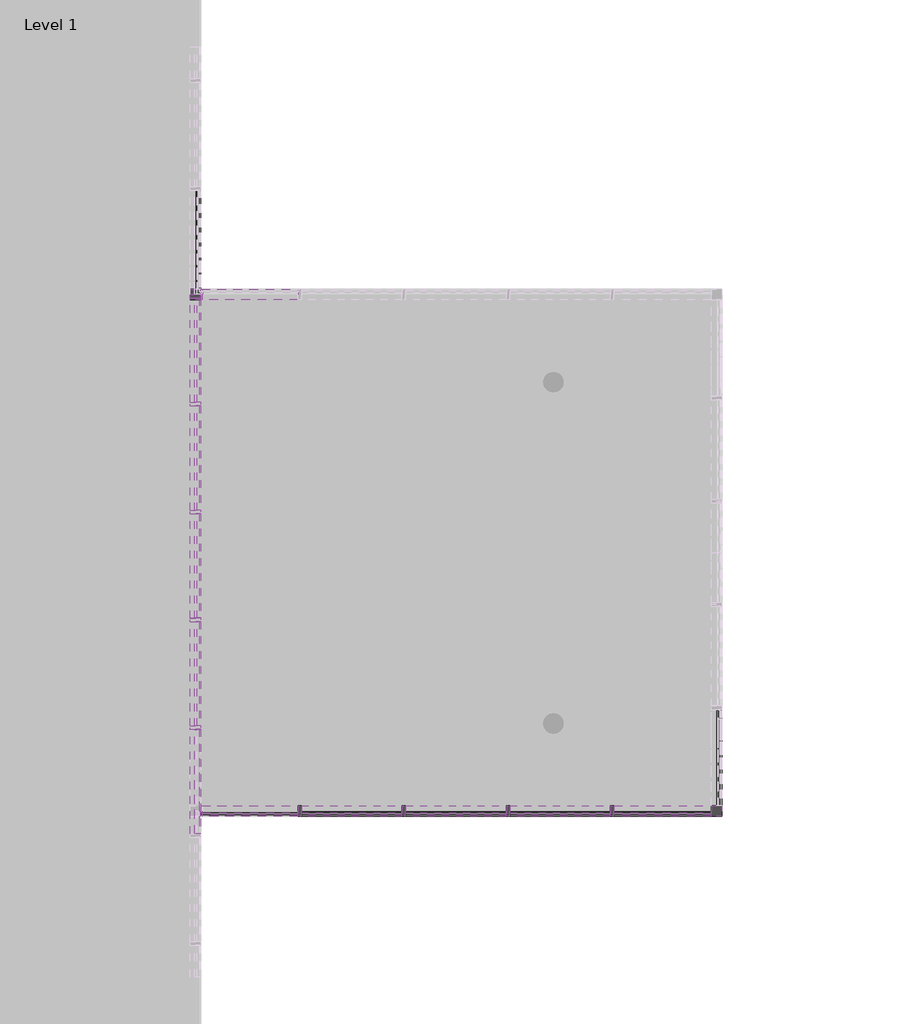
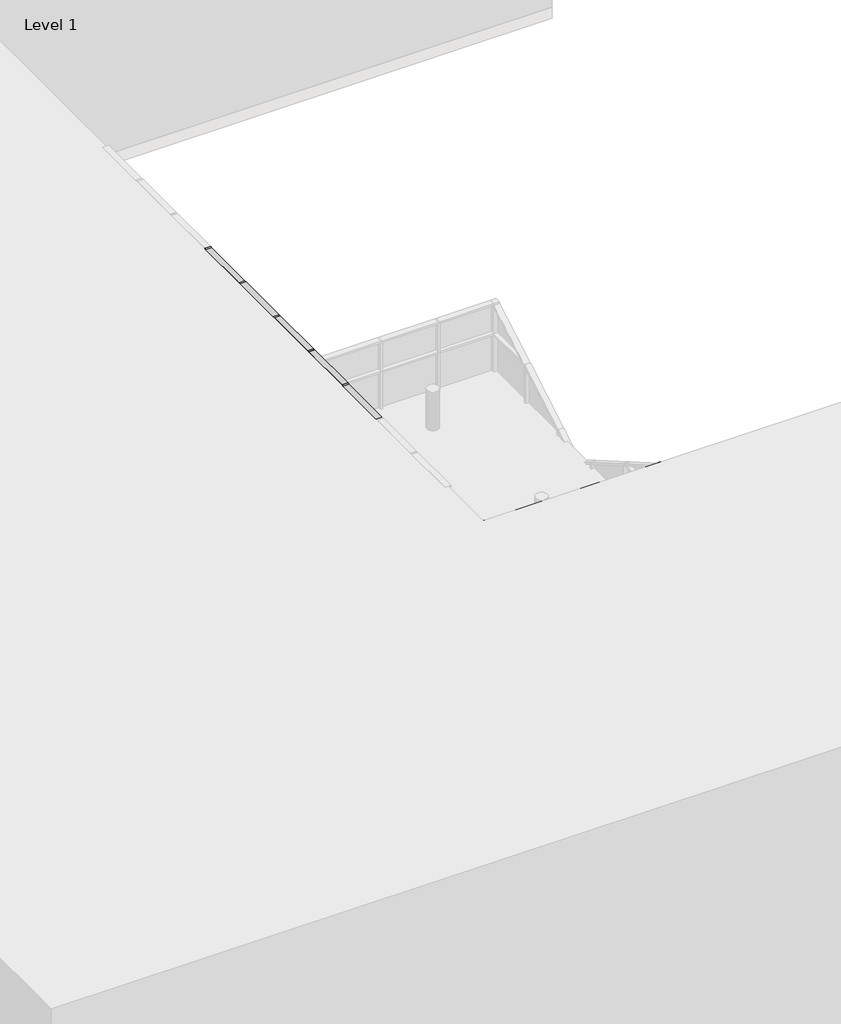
# One storey, part 3 of 18: 87 members, 35 plates.
"""IFC4 building model written with IfcOpenShell, lengths in millimetres."""

from ifc_helpers import new_model, si_unit, origin, place, context, project, spatial, transform, mapped, element, save
from components import quad_corner_mullion_quad_mullion_1_84add008, quad_corner_mullion_quad_mullion_1_33c9fb38, quad_corner_mullion_quad_mullion_1_4b298a92, quad_corner_mullion_quad_mullion_1_81362c20, quad_corner_mullion_quad_mullion_1_bceed214, quad_corner_mullion_quad_mullion_1_e3694288, rectangular_mullion_50mm_x_150mm_70cae3e1, rectangular_mullion_50mm_x_150mm_5226f6e8, rectangular_mullion_50mm_x_150mm_c839a2ff, rectangular_mullion_50mm_x_150mm_4fd86324, rectangular_mullion_50mm_x_150mm_6edb5cd3, rectangular_mullion_50mm_x_150mm_3bb547da, rectangular_mullion_50mm_x_150mm_487a502d, rectangular_mullion_50mm_x_150mm_33c77db3, rectangular_mullion_50mm_x_150mm_62159ae8, rectangular_mullion_50mm_x_150mm_bbc1c4ea, rectangular_mullion_50mm_x_150mm_84717ec5, rectangular_mullion_50mm_x_150mm_36202a7c, rectangular_mullion_50mm_x_150mm_1f94af64, rectangular_mullion_50mm_x_150mm_2daa7a2f, rectangular_mullion_50mm_x_150mm_ba376b5f, rectangular_mullion_50mm_x_150mm_cb05066b, rectangular_mullion_50mm_x_150mm_f059afb6, system_panel_glazed_77cafc2b, system_panel_glazed_ed797616, system_panel_glazed_95eec517, system_panel_glazed_979b1f5c, system_panel_glazed_bda8db77, system_panel_glazed_372dedf1, system_panel_glazed_d933175f, system_panel_glazed_53162424, system_panel_glazed_af97afc8, system_panel_glazed_280cad58, system_panel_solid_7338a288, system_panel_solid_0b170172, system_panel_solid_f97cb735

model = new_model("IFC4")

# Units and contexts
model_context = context("Model", 3, world=origin())
ifc_project = project(units=[si_unit("LENGTHUNIT", "METRE", prefix="MILLI")], contexts=[model_context])

# Site, building, storey
site = spatial("IfcSite", under=ifc_project)
building = spatial("IfcBuilding", under=site)
storey = spatial("IfcBuildingStorey", under=building, Name="Level 1", Elevation=0.0)

# Members
placement = place(None, origin())
quad_corner_mullion_quad_mullion_1_shape = quad_corner_mullion_quad_mullion_1_84add008(model_context)
element("IfcMember", 1, ObjectType="Quad Corner Mullion : Quad Mullion 1", at=placement, inside=storey, context=model_context, shape_type="MappedRepresentation", body=[
    mapped(quad_corner_mullion_quad_mullion_1_shape, transform((14709.0902051, -7283.8611817, 0.0), x_axis=(1.0, 0.0, 0.0), y_axis=(0.0, -1.0, 0.0), z_axis=(0.0, 0.0, -1.0))),
])
quad_corner_mullion_quad_mullion_1_2_shape = quad_corner_mullion_quad_mullion_1_33c9fb38(model_context)
element("IfcMember", 2, ObjectType="Quad Corner Mullion : Quad Mullion 1", at=placement, inside=storey, context=model_context, shape_type="MappedRepresentation", body=[
    mapped(quad_corner_mullion_quad_mullion_1_2_shape, transform((7497.0010724, -89.4607941, 6550.0), x_axis=(-1.0, 0.0, 0.0), y_axis=(0.0, 1.0, 0.0), z_axis=(0.0, 0.0, -1.0))),
])
quad_corner_mullion_quad_mullion_1_3_shape = quad_corner_mullion_quad_mullion_1_4b298a92(model_context)
element("IfcMember", 3, ObjectType="Quad Corner Mullion : Quad Mullion 1", at=placement, inside=storey, context=model_context, shape_type="MappedRepresentation", body=[
    mapped(quad_corner_mullion_quad_mullion_1_3_shape, transform((7497.0010724, -89.4607941, 7600.0), x_axis=(-1.0, 0.0, 0.0), y_axis=(0.0, 1.0, 0.0), z_axis=(0.0, 0.0, -1.0))),
])
element("IfcMember", 4, ObjectType="Quad Corner Mullion : Quad Mullion 1", at=placement, inside=storey, context=model_context, shape_type="MappedRepresentation", body=[
    mapped(quad_corner_mullion_quad_mullion_1_shape, transform((14709.0902051, -7283.8611817, 3800.0), x_axis=(1.0, 0.0, 0.0), y_axis=(0.0, -1.0, 0.0), z_axis=(0.0, 0.0, -1.0))),
])
quad_corner_mullion_quad_mullion_1_4_shape = quad_corner_mullion_quad_mullion_1_81362c20(model_context)
element("IfcMember", 5, ObjectType="Quad Corner Mullion : Quad Mullion 1", at=placement, inside=storey, context=model_context, shape_type="MappedRepresentation", body=[
    mapped(quad_corner_mullion_quad_mullion_1_4_shape, transform((14709.0902051, -7283.8611817, 7600.0), x_axis=(1.0, 0.0, 0.0), y_axis=(0.0, -1.0, 0.0), z_axis=(0.0, 0.0, -1.0))),
])
quad_corner_mullion_quad_mullion_1_5_shape = quad_corner_mullion_quad_mullion_1_bceed214(model_context)
element("IfcMember", 6, ObjectType="Quad Corner Mullion : Quad Mullion 1", at=placement, inside=storey, context=model_context, shape_type="MappedRepresentation", body=[
    mapped(quad_corner_mullion_quad_mullion_1_5_shape, transform((7447.5010724, -89.4607941, 0.0), x_axis=(-1.0, 0.0, 0.0), y_axis=(0.0, 1.0, 0.0), z_axis=(0.0, 0.0, -1.0))),
])
quad_corner_mullion_quad_mullion_1_6_shape = quad_corner_mullion_quad_mullion_1_e3694288(model_context)
element("IfcMember", 7, ObjectType="Quad Corner Mullion : Quad Mullion 1", at=placement, inside=storey, context=model_context, shape_type="MappedRepresentation", body=[
    mapped(quad_corner_mullion_quad_mullion_1_6_shape, transform((7447.5010724, -89.4607941, 3800.0), x_axis=(-1.0, 0.0, 0.0), y_axis=(0.0, 1.0, 0.0), z_axis=(0.0, 0.0, -1.0))),
])
rectangular_mullion_50mm_x_150mm_shape = rectangular_mullion_50mm_x_150mm_70cae3e1(model_context)
element("IfcMember", 8, ObjectType="Rectangular Mullion : 50mm x 150mm", at=placement, inside=storey, context=model_context, shape_type="MappedRepresentation", body=[
    mapped(rectangular_mullion_50mm_x_150mm_shape, transform((7447.5010724, -6148.3709452, 12400.0), x_axis=(0.0, 0.0, 1.0), y_axis=(1.0, 0.0, 0.0), z_axis=(0.0, 1.0, 0.0))),
])
element("IfcMember", 9, ObjectType="Rectangular Mullion : 50mm x 150mm", at=placement, inside=storey, context=model_context, shape_type="MappedRepresentation", body=[
    mapped(rectangular_mullion_50mm_x_150mm_shape, transform((7447.5010724, -4646.1232893, 12400.0), x_axis=(0.0, 0.0, 1.0), y_axis=(1.0, 0.0, 0.0), z_axis=(0.0, 1.0, 0.0))),
])
element("IfcMember", 10, ObjectType="Rectangular Mullion : 50mm x 150mm", at=placement, inside=storey, context=model_context, shape_type="MappedRepresentation", body=[
    mapped(rectangular_mullion_50mm_x_150mm_shape, transform((7447.5010724, -3143.8756334, 12400.0), x_axis=(0.0, 0.0, 1.0), y_axis=(1.0, 0.0, 0.0), z_axis=(0.0, 1.0, 0.0))),
])
element("IfcMember", 11, ObjectType="Rectangular Mullion : 50mm x 150mm", at=placement, inside=storey, context=model_context, shape_type="MappedRepresentation", body=[
    mapped(rectangular_mullion_50mm_x_150mm_shape, transform((7447.5010724, -1641.6279774, 12400.0), x_axis=(0.0, 0.0, 1.0), y_axis=(1.0, 0.0, 0.0), z_axis=(0.0, 1.0, 0.0))),
])
element("IfcMember", 12, ObjectType="Rectangular Mullion : 50mm x 150mm", at=placement, inside=storey, context=model_context, shape_type="MappedRepresentation", body=[
    mapped(rectangular_mullion_50mm_x_150mm_shape, transform((7447.5010724, -139.3803215, 12400.0), x_axis=(0.0, 0.0, 1.0), y_axis=(1.0, 0.0, 0.0), z_axis=(0.0, 1.0, 0.0))),
])
element("IfcMember", 13, ObjectType="Rectangular Mullion : 50mm x 150mm", at=placement, inside=storey, context=model_context, shape_type="MappedRepresentation", body=[
    mapped(rectangular_mullion_50mm_x_150mm_shape, transform((7447.5010724, -6098.3709452, 6600.0), x_axis=(0.0, 0.0, -1.0), y_axis=(1.0, 0.0, 0.0), z_axis=(0.0, -1.0, 0.0))),
])
element("IfcMember", 14, ObjectType="Rectangular Mullion : 50mm x 150mm", at=placement, inside=storey, context=model_context, shape_type="MappedRepresentation", body=[
    mapped(rectangular_mullion_50mm_x_150mm_shape, transform((7447.5010724, -4596.1232893, 6600.0), x_axis=(0.0, 0.0, -1.0), y_axis=(1.0, 0.0, 0.0), z_axis=(0.0, -1.0, 0.0))),
])
element("IfcMember", 15, ObjectType="Rectangular Mullion : 50mm x 150mm", at=placement, inside=storey, context=model_context, shape_type="MappedRepresentation", body=[
    mapped(rectangular_mullion_50mm_x_150mm_shape, transform((7447.5010724, -3093.8756334, 6600.0), x_axis=(0.0, 0.0, -1.0), y_axis=(1.0, 0.0, 0.0), z_axis=(0.0, -1.0, 0.0))),
])
element("IfcMember", 16, ObjectType="Rectangular Mullion : 50mm x 150mm", at=placement, inside=storey, context=model_context, shape_type="MappedRepresentation", body=[
    mapped(rectangular_mullion_50mm_x_150mm_shape, transform((7447.5010724, -1591.6279774, 6600.0), x_axis=(0.0, 0.0, -1.0), y_axis=(1.0, 0.0, 0.0), z_axis=(0.0, -1.0, 0.0))),
])
rectangular_mullion_50mm_x_150mm_2_shape = rectangular_mullion_50mm_x_150mm_5226f6e8(model_context)
element("IfcMember", 17, ObjectType="Rectangular Mullion : 50mm x 150mm", at=placement, inside=storey, context=model_context, shape_type="MappedRepresentation", body=[
    mapped(rectangular_mullion_50mm_x_150mm_2_shape, transform((7447.5010724, -6148.3709452, 7600.0), x_axis=(0.0, 0.0, 1.0), y_axis=(1.0, 0.0, 0.0), z_axis=(0.0, 1.0, 0.0))),
])
element("IfcMember", 18, ObjectType="Rectangular Mullion : 50mm x 150mm", at=placement, inside=storey, context=model_context, shape_type="MappedRepresentation", body=[
    mapped(rectangular_mullion_50mm_x_150mm_2_shape, transform((7447.5010724, -4646.1232893, 7600.0), x_axis=(0.0, 0.0, 1.0), y_axis=(1.0, 0.0, 0.0), z_axis=(0.0, 1.0, 0.0))),
])
element("IfcMember", 19, ObjectType="Rectangular Mullion : 50mm x 150mm", at=placement, inside=storey, context=model_context, shape_type="MappedRepresentation", body=[
    mapped(rectangular_mullion_50mm_x_150mm_2_shape, transform((7447.5010724, -3143.8756334, 7600.0), x_axis=(0.0, 0.0, 1.0), y_axis=(1.0, 0.0, 0.0), z_axis=(0.0, 1.0, 0.0))),
])
element("IfcMember", 20, ObjectType="Rectangular Mullion : 50mm x 150mm", at=placement, inside=storey, context=model_context, shape_type="MappedRepresentation", body=[
    mapped(rectangular_mullion_50mm_x_150mm_2_shape, transform((7447.5010724, -1641.6279774, 7600.0), x_axis=(0.0, 0.0, 1.0), y_axis=(1.0, 0.0, 0.0), z_axis=(0.0, 1.0, 0.0))),
])
element("IfcMember", 21, ObjectType="Rectangular Mullion : 50mm x 150mm", at=placement, inside=storey, context=model_context, shape_type="MappedRepresentation", body=[
    mapped(rectangular_mullion_50mm_x_150mm_2_shape, transform((7447.5010724, -139.3803215, 7600.0), x_axis=(0.0, 0.0, 1.0), y_axis=(1.0, 0.0, 0.0), z_axis=(0.0, 1.0, 0.0))),
])
element("IfcMember", 22, ObjectType="Rectangular Mullion : 50mm x 150mm", at=placement, inside=storey, context=model_context, shape_type="MappedRepresentation", body=[
    mapped(rectangular_mullion_50mm_x_150mm_2_shape, transform((7447.5010724, -6148.3709452, 11400.0), x_axis=(0.0, 0.0, 1.0), y_axis=(1.0, 0.0, 0.0), z_axis=(0.0, 1.0, 0.0))),
])
element("IfcMember", 23, ObjectType="Rectangular Mullion : 50mm x 150mm", at=placement, inside=storey, context=model_context, shape_type="MappedRepresentation", body=[
    mapped(rectangular_mullion_50mm_x_150mm_2_shape, transform((7447.5010724, -4646.1232893, 11400.0), x_axis=(0.0, 0.0, 1.0), y_axis=(1.0, 0.0, 0.0), z_axis=(0.0, 1.0, 0.0))),
])
element("IfcMember", 24, ObjectType="Rectangular Mullion : 50mm x 150mm", at=placement, inside=storey, context=model_context, shape_type="MappedRepresentation", body=[
    mapped(rectangular_mullion_50mm_x_150mm_2_shape, transform((7447.5010724, -3143.8756334, 11400.0), x_axis=(0.0, 0.0, 1.0), y_axis=(1.0, 0.0, 0.0), z_axis=(0.0, 1.0, 0.0))),
])
element("IfcMember", 25, ObjectType="Rectangular Mullion : 50mm x 150mm", at=placement, inside=storey, context=model_context, shape_type="MappedRepresentation", body=[
    mapped(rectangular_mullion_50mm_x_150mm_2_shape, transform((7447.5010724, -1641.6279774, 11400.0), x_axis=(0.0, 0.0, 1.0), y_axis=(1.0, 0.0, 0.0), z_axis=(0.0, 1.0, 0.0))),
])
element("IfcMember", 26, ObjectType="Rectangular Mullion : 50mm x 150mm", at=placement, inside=storey, context=model_context, shape_type="MappedRepresentation", body=[
    mapped(rectangular_mullion_50mm_x_150mm_2_shape, transform((7447.5010724, -139.3803215, 11400.0), x_axis=(0.0, 0.0, 1.0), y_axis=(1.0, 0.0, 0.0), z_axis=(0.0, 1.0, 0.0))),
])
element("IfcMember", 27, ObjectType="Rectangular Mullion : 50mm x 150mm", at=placement, inside=storey, context=model_context, shape_type="MappedRepresentation", body=[
    mapped(rectangular_mullion_50mm_x_150mm_2_shape, transform((7447.5010724, -6148.3709452, 10040.0), x_axis=(0.0, 0.0, 1.0), y_axis=(1.0, 0.0, 0.0), z_axis=(0.0, 1.0, 0.0))),
])
element("IfcMember", 28, ObjectType="Rectangular Mullion : 50mm x 150mm", at=placement, inside=storey, context=model_context, shape_type="MappedRepresentation", body=[
    mapped(rectangular_mullion_50mm_x_150mm_2_shape, transform((7447.5010724, -4646.1232893, 10040.0), x_axis=(0.0, 0.0, 1.0), y_axis=(1.0, 0.0, 0.0), z_axis=(0.0, 1.0, 0.0))),
])
element("IfcMember", 29, ObjectType="Rectangular Mullion : 50mm x 150mm", at=placement, inside=storey, context=model_context, shape_type="MappedRepresentation", body=[
    mapped(rectangular_mullion_50mm_x_150mm_2_shape, transform((7447.5010724, -3143.8756334, 10040.0), x_axis=(0.0, 0.0, 1.0), y_axis=(1.0, 0.0, 0.0), z_axis=(0.0, 1.0, 0.0))),
])
element("IfcMember", 30, ObjectType="Rectangular Mullion : 50mm x 150mm", at=placement, inside=storey, context=model_context, shape_type="MappedRepresentation", body=[
    mapped(rectangular_mullion_50mm_x_150mm_2_shape, transform((7447.5010724, -1641.6279774, 10040.0), x_axis=(0.0, 0.0, 1.0), y_axis=(1.0, 0.0, 0.0), z_axis=(0.0, 1.0, 0.0))),
])
element("IfcMember", 31, ObjectType="Rectangular Mullion : 50mm x 150mm", at=placement, inside=storey, context=model_context, shape_type="MappedRepresentation", body=[
    mapped(rectangular_mullion_50mm_x_150mm_2_shape, transform((7447.5010724, -139.3803215, 10040.0), x_axis=(0.0, 0.0, 1.0), y_axis=(1.0, 0.0, 0.0), z_axis=(0.0, 1.0, 0.0))),
])
rectangular_mullion_50mm_x_150mm_3_shape = rectangular_mullion_50mm_x_150mm_c839a2ff(model_context)
element("IfcMember", 32, ObjectType="Rectangular Mullion : 50mm x 150mm", at=placement, inside=storey, context=model_context, shape_type="MappedRepresentation", body=[
    mapped(rectangular_mullion_50mm_x_150mm_3_shape, transform((7447.5010724, -14.4607941, 0.0), x_axis=(0.0, 0.0, -1.0), y_axis=(1.0, 0.0, 0.0), z_axis=(0.0, -1.0, 0.0))),
])
rectangular_mullion_50mm_x_150mm_4_shape = rectangular_mullion_50mm_x_150mm_4fd86324(model_context)
element("IfcMember", 33, ObjectType="Rectangular Mullion : 50mm x 150mm", at=placement, inside=storey, context=model_context, shape_type="MappedRepresentation", body=[
    mapped(rectangular_mullion_50mm_x_150mm_4_shape, transform((10327.1367255, -7283.8611817, 8424.5150656), x_axis=(0.0, 0.0, 1.0), y_axis=(0.0, -1.0, 0.0), z_axis=(1.0, 0.0, 0.0))),
])
element("IfcMember", 34, ObjectType="Rectangular Mullion : 50mm x 150mm", at=placement, inside=storey, context=model_context, shape_type="MappedRepresentation", body=[
    mapped(rectangular_mullion_50mm_x_150mm_4_shape, transform((11779.4545519, -7283.8611817, 8424.5150656), x_axis=(0.0, 0.0, 1.0), y_axis=(0.0, -1.0, 0.0), z_axis=(1.0, 0.0, 0.0))),
])
element("IfcMember", 35, ObjectType="Rectangular Mullion : 50mm x 150mm", at=placement, inside=storey, context=model_context, shape_type="MappedRepresentation", body=[
    mapped(rectangular_mullion_50mm_x_150mm_4_shape, transform((13231.7723783, -7283.8611817, 8424.5150656), x_axis=(0.0, 0.0, 1.0), y_axis=(0.0, -1.0, 0.0), z_axis=(1.0, 0.0, 0.0))),
])
element("IfcMember", 36, ObjectType="Rectangular Mullion : 50mm x 150mm", at=placement, inside=storey, context=model_context, shape_type="MappedRepresentation", body=[
    mapped(rectangular_mullion_50mm_x_150mm_4_shape, transform((8924.8188991, -7283.8611817, 0.0), x_axis=(0.0, 0.0, -1.0), y_axis=(0.0, -1.0, 0.0), z_axis=(-1.0, 0.0, 0.0))),
])
element("IfcMember", 37, ObjectType="Rectangular Mullion : 50mm x 150mm", at=placement, inside=storey, context=model_context, shape_type="MappedRepresentation", body=[
    mapped(rectangular_mullion_50mm_x_150mm_4_shape, transform((10377.1367255, -7283.8611817, 0.0), x_axis=(0.0, 0.0, -1.0), y_axis=(0.0, -1.0, 0.0), z_axis=(-1.0, 0.0, 0.0))),
])
element("IfcMember", 38, ObjectType="Rectangular Mullion : 50mm x 150mm", at=placement, inside=storey, context=model_context, shape_type="MappedRepresentation", body=[
    mapped(rectangular_mullion_50mm_x_150mm_4_shape, transform((11829.4545519, -7283.8611817, 0.0), x_axis=(0.0, 0.0, -1.0), y_axis=(0.0, -1.0, 0.0), z_axis=(-1.0, 0.0, 0.0))),
])
rectangular_mullion_50mm_x_150mm_5_shape = rectangular_mullion_50mm_x_150mm_6edb5cd3(model_context)
element("IfcMember", 39, ObjectType="Rectangular Mullion : 50mm x 150mm", at=placement, inside=storey, context=model_context, shape_type="MappedRepresentation", body=[
    mapped(rectangular_mullion_50mm_x_150mm_5_shape, transform((10327.1367255, -7283.8611817, 3800.0), x_axis=(0.0, 0.0, 1.0), y_axis=(0.0, -1.0, 0.0), z_axis=(1.0, 0.0, 0.0))),
])
element("IfcMember", 40, ObjectType="Rectangular Mullion : 50mm x 150mm", at=placement, inside=storey, context=model_context, shape_type="MappedRepresentation", body=[
    mapped(rectangular_mullion_50mm_x_150mm_5_shape, transform((11779.4545519, -7283.8611817, 3800.0), x_axis=(0.0, 0.0, 1.0), y_axis=(0.0, -1.0, 0.0), z_axis=(1.0, 0.0, 0.0))),
])
element("IfcMember", 41, ObjectType="Rectangular Mullion : 50mm x 150mm", at=placement, inside=storey, context=model_context, shape_type="MappedRepresentation", body=[
    mapped(rectangular_mullion_50mm_x_150mm_5_shape, transform((13231.7723783, -7283.8611817, 3800.0), x_axis=(0.0, 0.0, 1.0), y_axis=(0.0, -1.0, 0.0), z_axis=(1.0, 0.0, 0.0))),
])
element("IfcMember", 42, ObjectType="Rectangular Mullion : 50mm x 150mm", at=placement, inside=storey, context=model_context, shape_type="MappedRepresentation", body=[
    mapped(rectangular_mullion_50mm_x_150mm_5_shape, transform((10327.1367255, -7283.8611817, 7600.0), x_axis=(0.0, 0.0, 1.0), y_axis=(0.0, -1.0, 0.0), z_axis=(1.0, 0.0, 0.0))),
])
element("IfcMember", 43, ObjectType="Rectangular Mullion : 50mm x 150mm", at=placement, inside=storey, context=model_context, shape_type="MappedRepresentation", body=[
    mapped(rectangular_mullion_50mm_x_150mm_5_shape, transform((11779.4545519, -7283.8611817, 7600.0), x_axis=(0.0, 0.0, 1.0), y_axis=(0.0, -1.0, 0.0), z_axis=(1.0, 0.0, 0.0))),
])
element("IfcMember", 44, ObjectType="Rectangular Mullion : 50mm x 150mm", at=placement, inside=storey, context=model_context, shape_type="MappedRepresentation", body=[
    mapped(rectangular_mullion_50mm_x_150mm_5_shape, transform((13231.7723783, -7283.8611817, 7600.0), x_axis=(0.0, 0.0, 1.0), y_axis=(0.0, -1.0, 0.0), z_axis=(1.0, 0.0, 0.0))),
])
rectangular_mullion_50mm_x_150mm_6_shape = rectangular_mullion_50mm_x_150mm_3bb547da(model_context)
element("IfcMember", 45, ObjectType="Rectangular Mullion : 50mm x 150mm", at=placement, inside=storey, context=model_context, shape_type="MappedRepresentation", body=[
    mapped(rectangular_mullion_50mm_x_150mm_6_shape, transform((14634.0902051, -7283.8611817, 8424.5150656), x_axis=(0.0, 0.0, 1.0), y_axis=(0.0, -1.0, 0.0), z_axis=(1.0, 0.0, 0.0))),
])
element("IfcMember", 46, ObjectType="Rectangular Mullion : 50mm x 150mm", at=placement, inside=storey, context=model_context, shape_type="MappedRepresentation", body=[
    mapped(rectangular_mullion_50mm_x_150mm_6_shape, transform((13281.7723783, -7283.8611817, 0.0), x_axis=(0.0, 0.0, -1.0), y_axis=(0.0, -1.0, 0.0), z_axis=(-1.0, 0.0, 0.0))),
])
rectangular_mullion_50mm_x_150mm_7_shape = rectangular_mullion_50mm_x_150mm_487a502d(model_context)
element("IfcMember", 47, ObjectType="Rectangular Mullion : 50mm x 150mm", at=placement, inside=storey, context=model_context, shape_type="MappedRepresentation", body=[
    mapped(rectangular_mullion_50mm_x_150mm_7_shape, transform((7522.5010724, -89.4607941, 3800.0), x_axis=(0.0, 0.0, 1.0), y_axis=(0.0, 1.0, 0.0), z_axis=(-1.0, 0.0, 0.0))),
])
element("IfcMember", 48, ObjectType="Rectangular Mullion : 50mm x 150mm", at=placement, inside=storey, context=model_context, shape_type="MappedRepresentation", body=[
    mapped(rectangular_mullion_50mm_x_150mm_7_shape, transform((8874.8188991, -7283.8611817, 3800.0), x_axis=(0.0, 0.0, 1.0), y_axis=(0.0, -1.0, 0.0), z_axis=(1.0, 0.0, 0.0))),
])
element("IfcMember", 49, ObjectType="Rectangular Mullion : 50mm x 150mm", at=placement, inside=storey, context=model_context, shape_type="MappedRepresentation", body=[
    mapped(rectangular_mullion_50mm_x_150mm_7_shape, transform((14634.0902051, -7283.8611817, 3800.0), x_axis=(0.0, 0.0, 1.0), y_axis=(0.0, -1.0, 0.0), z_axis=(1.0, 0.0, 0.0))),
])
element("IfcMember", 50, ObjectType="Rectangular Mullion : 50mm x 150mm", at=placement, inside=storey, context=model_context, shape_type="MappedRepresentation", body=[
    mapped(rectangular_mullion_50mm_x_150mm_7_shape, transform((14634.0902051, -7283.8611817, 7600.0), x_axis=(0.0, 0.0, 1.0), y_axis=(0.0, -1.0, 0.0), z_axis=(1.0, 0.0, 0.0))),
])
rectangular_mullion_50mm_x_150mm_8_shape = rectangular_mullion_50mm_x_150mm_33c77db3(model_context)
element("IfcMember", 51, ObjectType="Rectangular Mullion : 50mm x 150mm", at=placement, inside=storey, context=model_context, shape_type="MappedRepresentation", body=[
    mapped(rectangular_mullion_50mm_x_150mm_8_shape, transform((14709.0902051, -7208.8611817, 0.0), x_axis=(0.0, 0.0, -1.0), y_axis=(1.0, 0.0, 0.0), z_axis=(0.0, -1.0, 0.0))),
])
rectangular_mullion_50mm_x_150mm_9_shape = rectangular_mullion_50mm_x_150mm_62159ae8(model_context)
element("IfcMember", 52, ObjectType="Rectangular Mullion : 50mm x 150mm", at=placement, inside=storey, context=model_context, shape_type="MappedRepresentation", body=[
    mapped(rectangular_mullion_50mm_x_150mm_9_shape, transform((8899.8188991, -7283.8611817, 0.0), x_axis=(1.0, 0.0, 0.0), y_axis=(0.0, -1.0, 0.0), z_axis=(0.0, 0.0, -1.0))),
])
element("IfcMember", 53, ObjectType="Rectangular Mullion : 50mm x 150mm", at=placement, inside=storey, context=model_context, shape_type="MappedRepresentation", body=[
    mapped(rectangular_mullion_50mm_x_150mm_9_shape, transform((10352.1367255, -7283.8611817, 0.0), x_axis=(1.0, 0.0, 0.0), y_axis=(0.0, -1.0, 0.0), z_axis=(0.0, 0.0, -1.0))),
])
element("IfcMember", 54, ObjectType="Rectangular Mullion : 50mm x 150mm", at=placement, inside=storey, context=model_context, shape_type="MappedRepresentation", body=[
    mapped(rectangular_mullion_50mm_x_150mm_9_shape, transform((11804.4545519, -7283.8611817, 0.0), x_axis=(1.0, 0.0, 0.0), y_axis=(0.0, -1.0, 0.0), z_axis=(0.0, 0.0, -1.0))),
])
element("IfcMember", 55, ObjectType="Rectangular Mullion : 50mm x 150mm", at=placement, inside=storey, context=model_context, shape_type="MappedRepresentation", body=[
    mapped(rectangular_mullion_50mm_x_150mm_9_shape, transform((13256.7723783, -7283.8611817, 0.0), x_axis=(1.0, 0.0, 0.0), y_axis=(0.0, -1.0, 0.0), z_axis=(0.0, 0.0, -1.0))),
])
rectangular_mullion_50mm_x_150mm_10_shape = rectangular_mullion_50mm_x_150mm_bbc1c4ea(model_context)
element("IfcMember", 56, ObjectType="Rectangular Mullion : 50mm x 150mm", at=placement, inside=storey, context=model_context, shape_type="MappedRepresentation", body=[
    mapped(rectangular_mullion_50mm_x_150mm_10_shape, transform((7447.5010724, -6123.3709452, 11400.0), x_axis=(0.0, 1.0, 0.0), y_axis=(1.0, 0.0, 0.0), z_axis=(0.0, 0.0, -1.0))),
])
element("IfcMember", 57, ObjectType="Rectangular Mullion : 50mm x 150mm", at=placement, inside=storey, context=model_context, shape_type="MappedRepresentation", body=[
    mapped(rectangular_mullion_50mm_x_150mm_10_shape, transform((7447.5010724, -4621.1232893, 11400.0), x_axis=(0.0, 1.0, 0.0), y_axis=(1.0, 0.0, 0.0), z_axis=(0.0, 0.0, -1.0))),
])
element("IfcMember", 58, ObjectType="Rectangular Mullion : 50mm x 150mm", at=placement, inside=storey, context=model_context, shape_type="MappedRepresentation", body=[
    mapped(rectangular_mullion_50mm_x_150mm_10_shape, transform((7447.5010724, -3118.8756334, 11400.0), x_axis=(0.0, 1.0, 0.0), y_axis=(1.0, 0.0, 0.0), z_axis=(0.0, 0.0, -1.0))),
])
element("IfcMember", 59, ObjectType="Rectangular Mullion : 50mm x 150mm", at=placement, inside=storey, context=model_context, shape_type="MappedRepresentation", body=[
    mapped(rectangular_mullion_50mm_x_150mm_10_shape, transform((7447.5010724, -1616.6279774, 11400.0), x_axis=(0.0, 1.0, 0.0), y_axis=(1.0, 0.0, 0.0), z_axis=(0.0, 0.0, -1.0))),
])
element("IfcMember", 60, ObjectType="Rectangular Mullion : 50mm x 150mm", at=placement, inside=storey, context=model_context, shape_type="MappedRepresentation", body=[
    mapped(rectangular_mullion_50mm_x_150mm_10_shape, transform((7447.5010724, -114.3803215, 11400.0), x_axis=(0.0, 1.0, 0.0), y_axis=(1.0, 0.0, 0.0), z_axis=(0.0, 0.0, -1.0))),
])
rectangular_mullion_50mm_x_150mm_11_shape = rectangular_mullion_50mm_x_150mm_84717ec5(model_context)
element("IfcMember", 61, ObjectType="Rectangular Mullion : 50mm x 150mm", at=placement, inside=storey, context=model_context, shape_type="MappedRepresentation", body=[
    mapped(rectangular_mullion_50mm_x_150mm_11_shape, transform((7447.5010724, -6123.3709452, 10040.0), x_axis=(0.0, 1.0, 0.0), y_axis=(1.0, 0.0, 0.0), z_axis=(0.0, 0.0, -1.0))),
])
element("IfcMember", 62, ObjectType="Rectangular Mullion : 50mm x 150mm", at=placement, inside=storey, context=model_context, shape_type="MappedRepresentation", body=[
    mapped(rectangular_mullion_50mm_x_150mm_11_shape, transform((7447.5010724, -4621.1232893, 10040.0), x_axis=(0.0, 1.0, 0.0), y_axis=(1.0, 0.0, 0.0), z_axis=(0.0, 0.0, -1.0))),
])
element("IfcMember", 63, ObjectType="Rectangular Mullion : 50mm x 150mm", at=placement, inside=storey, context=model_context, shape_type="MappedRepresentation", body=[
    mapped(rectangular_mullion_50mm_x_150mm_11_shape, transform((7447.5010724, -3118.8756334, 10040.0), x_axis=(0.0, 1.0, 0.0), y_axis=(1.0, 0.0, 0.0), z_axis=(0.0, 0.0, -1.0))),
])
element("IfcMember", 64, ObjectType="Rectangular Mullion : 50mm x 150mm", at=placement, inside=storey, context=model_context, shape_type="MappedRepresentation", body=[
    mapped(rectangular_mullion_50mm_x_150mm_11_shape, transform((7447.5010724, -1616.6279774, 10040.0), x_axis=(0.0, 1.0, 0.0), y_axis=(1.0, 0.0, 0.0), z_axis=(0.0, 0.0, -1.0))),
])
element("IfcMember", 65, ObjectType="Rectangular Mullion : 50mm x 150mm", at=placement, inside=storey, context=model_context, shape_type="MappedRepresentation", body=[
    mapped(rectangular_mullion_50mm_x_150mm_11_shape, transform((7447.5010724, -114.3803215, 10040.0), x_axis=(0.0, 1.0, 0.0), y_axis=(1.0, 0.0, 0.0), z_axis=(0.0, 0.0, -1.0))),
])
rectangular_mullion_50mm_x_150mm_12_shape = rectangular_mullion_50mm_x_150mm_36202a7c(model_context)
element("IfcMember", 66, ObjectType="Rectangular Mullion : 50mm x 150mm", at=placement, inside=storey, context=model_context, shape_type="MappedRepresentation", body=[
    mapped(rectangular_mullion_50mm_x_150mm_12_shape, transform((7447.5010724, -6123.3709452, 7600.0), x_axis=(0.0, 1.0, 0.0), y_axis=(1.0, 0.0, 0.0), z_axis=(0.0, 0.0, -1.0))),
])
element("IfcMember", 67, ObjectType="Rectangular Mullion : 50mm x 150mm", at=placement, inside=storey, context=model_context, shape_type="MappedRepresentation", body=[
    mapped(rectangular_mullion_50mm_x_150mm_12_shape, transform((7447.5010724, -4621.1232893, 7600.0), x_axis=(0.0, 1.0, 0.0), y_axis=(1.0, 0.0, 0.0), z_axis=(0.0, 0.0, -1.0))),
])
element("IfcMember", 68, ObjectType="Rectangular Mullion : 50mm x 150mm", at=placement, inside=storey, context=model_context, shape_type="MappedRepresentation", body=[
    mapped(rectangular_mullion_50mm_x_150mm_12_shape, transform((7447.5010724, -3118.8756334, 7600.0), x_axis=(0.0, 1.0, 0.0), y_axis=(1.0, 0.0, 0.0), z_axis=(0.0, 0.0, -1.0))),
])
element("IfcMember", 69, ObjectType="Rectangular Mullion : 50mm x 150mm", at=placement, inside=storey, context=model_context, shape_type="MappedRepresentation", body=[
    mapped(rectangular_mullion_50mm_x_150mm_12_shape, transform((7447.5010724, -1616.6279774, 7600.0), x_axis=(0.0, 1.0, 0.0), y_axis=(1.0, 0.0, 0.0), z_axis=(0.0, 0.0, -1.0))),
])
element("IfcMember", 70, ObjectType="Rectangular Mullion : 50mm x 150mm", at=placement, inside=storey, context=model_context, shape_type="MappedRepresentation", body=[
    mapped(rectangular_mullion_50mm_x_150mm_12_shape, transform((7447.5010724, -114.3803215, 7600.0), x_axis=(0.0, 1.0, 0.0), y_axis=(1.0, 0.0, 0.0), z_axis=(0.0, 0.0, -1.0))),
])
element("IfcMember", 71, ObjectType="Rectangular Mullion : 50mm x 150mm", at=placement, inside=storey, context=model_context, shape_type="MappedRepresentation", body=[
    mapped(rectangular_mullion_50mm_x_150mm_10_shape, transform((7447.5010724, -6123.3709452, 6600.0), x_axis=(0.0, 1.0, 0.0), y_axis=(1.0, 0.0, 0.0), z_axis=(0.0, 0.0, -1.0))),
])
element("IfcMember", 72, ObjectType="Rectangular Mullion : 50mm x 150mm", at=placement, inside=storey, context=model_context, shape_type="MappedRepresentation", body=[
    mapped(rectangular_mullion_50mm_x_150mm_10_shape, transform((7447.5010724, -4621.1232893, 6600.0), x_axis=(0.0, 1.0, 0.0), y_axis=(1.0, 0.0, 0.0), z_axis=(0.0, 0.0, -1.0))),
])
element("IfcMember", 73, ObjectType="Rectangular Mullion : 50mm x 150mm", at=placement, inside=storey, context=model_context, shape_type="MappedRepresentation", body=[
    mapped(rectangular_mullion_50mm_x_150mm_10_shape, transform((7447.5010724, -3118.8756334, 6600.0), x_axis=(0.0, 1.0, 0.0), y_axis=(1.0, 0.0, 0.0), z_axis=(0.0, 0.0, -1.0))),
])
element("IfcMember", 74, ObjectType="Rectangular Mullion : 50mm x 150mm", at=placement, inside=storey, context=model_context, shape_type="MappedRepresentation", body=[
    mapped(rectangular_mullion_50mm_x_150mm_10_shape, transform((7447.5010724, -1616.6279774, 6600.0), x_axis=(0.0, 1.0, 0.0), y_axis=(1.0, 0.0, 0.0), z_axis=(0.0, 0.0, -1.0))),
])
element("IfcMember", 75, ObjectType="Rectangular Mullion : 50mm x 150mm", at=placement, inside=storey, context=model_context, shape_type="MappedRepresentation", body=[
    mapped(rectangular_mullion_50mm_x_150mm_10_shape, transform((7447.5010724, -114.3803215, 6600.0), x_axis=(0.0, 1.0, 0.0), y_axis=(1.0, 0.0, 0.0), z_axis=(0.0, 0.0, -1.0))),
])
element("IfcMember", 76, ObjectType="Rectangular Mullion : 50mm x 150mm", at=placement, inside=storey, context=model_context, shape_type="MappedRepresentation", body=[
    mapped(rectangular_mullion_50mm_x_150mm_9_shape, transform((8899.8188991, -7283.8611817, 3800.0), x_axis=(1.0, 0.0, 0.0), y_axis=(0.0, -1.0, 0.0), z_axis=(0.0, 0.0, -1.0))),
])
element("IfcMember", 77, ObjectType="Rectangular Mullion : 50mm x 150mm", at=placement, inside=storey, context=model_context, shape_type="MappedRepresentation", body=[
    mapped(rectangular_mullion_50mm_x_150mm_9_shape, transform((10352.1367255, -7283.8611817, 3800.0), x_axis=(1.0, 0.0, 0.0), y_axis=(0.0, -1.0, 0.0), z_axis=(0.0, 0.0, -1.0))),
])
element("IfcMember", 78, ObjectType="Rectangular Mullion : 50mm x 150mm", at=placement, inside=storey, context=model_context, shape_type="MappedRepresentation", body=[
    mapped(rectangular_mullion_50mm_x_150mm_9_shape, transform((11804.4545519, -7283.8611817, 3800.0), x_axis=(1.0, 0.0, 0.0), y_axis=(0.0, -1.0, 0.0), z_axis=(0.0, 0.0, -1.0))),
])
element("IfcMember", 79, ObjectType="Rectangular Mullion : 50mm x 150mm", at=placement, inside=storey, context=model_context, shape_type="MappedRepresentation", body=[
    mapped(rectangular_mullion_50mm_x_150mm_9_shape, transform((13256.7723783, -7283.8611817, 3800.0), x_axis=(1.0, 0.0, 0.0), y_axis=(0.0, -1.0, 0.0), z_axis=(0.0, 0.0, -1.0))),
])
rectangular_mullion_50mm_x_150mm_13_shape = rectangular_mullion_50mm_x_150mm_1f94af64(model_context)
element("IfcMember", 80, ObjectType="Rectangular Mullion : 50mm x 150mm", at=placement, inside=storey, context=model_context, shape_type="MappedRepresentation", body=[
    mapped(rectangular_mullion_50mm_x_150mm_13_shape, transform((7545.1580186, -89.4607941, 8424.5150656), x_axis=(0.0, 0.0, 1.0), y_axis=(0.0, 1.0, 0.0), z_axis=(-1.0, 0.0, 0.0))),
])
rectangular_mullion_50mm_x_150mm_14_shape = rectangular_mullion_50mm_x_150mm_2daa7a2f(model_context)
element("IfcMember", 81, ObjectType="Rectangular Mullion : 50mm x 150mm", at=placement, inside=storey, context=model_context, shape_type="MappedRepresentation", body=[
    mapped(rectangular_mullion_50mm_x_150mm_14_shape, transform((8899.8188991, -7283.8611817, 7600.0), x_axis=(1.0, 0.0, 0.0), y_axis=(0.0, -1.0, 0.0), z_axis=(0.0, 0.0, -1.0))),
])
element("IfcMember", 82, ObjectType="Rectangular Mullion : 50mm x 150mm", at=placement, inside=storey, context=model_context, shape_type="MappedRepresentation", body=[
    mapped(rectangular_mullion_50mm_x_150mm_14_shape, transform((10352.1367255, -7283.8611817, 7600.0), x_axis=(1.0, 0.0, 0.0), y_axis=(0.0, -1.0, 0.0), z_axis=(0.0, 0.0, -1.0))),
])
element("IfcMember", 83, ObjectType="Rectangular Mullion : 50mm x 150mm", at=placement, inside=storey, context=model_context, shape_type="MappedRepresentation", body=[
    mapped(rectangular_mullion_50mm_x_150mm_14_shape, transform((11804.4545519, -7283.8611817, 7600.0), x_axis=(1.0, 0.0, 0.0), y_axis=(0.0, -1.0, 0.0), z_axis=(0.0, 0.0, -1.0))),
])
element("IfcMember", 84, ObjectType="Rectangular Mullion : 50mm x 150mm", at=placement, inside=storey, context=model_context, shape_type="MappedRepresentation", body=[
    mapped(rectangular_mullion_50mm_x_150mm_14_shape, transform((13256.7723783, -7283.8611817, 7600.0), x_axis=(1.0, 0.0, 0.0), y_axis=(0.0, -1.0, 0.0), z_axis=(0.0, 0.0, -1.0))),
])
rectangular_mullion_50mm_x_150mm_15_shape = rectangular_mullion_50mm_x_150mm_ba376b5f(model_context)
element("IfcMember", 85, ObjectType="Rectangular Mullion : 50mm x 150mm", at=placement, inside=storey, context=model_context, shape_type="MappedRepresentation", body=[
    mapped(rectangular_mullion_50mm_x_150mm_15_shape, transform((7545.1580186, -89.4607941, 7600.0), x_axis=(0.0, 0.0, 1.0), y_axis=(0.0, 1.0, 0.0), z_axis=(-1.0, 0.0, 0.0))),
])
rectangular_mullion_50mm_x_150mm_16_shape = rectangular_mullion_50mm_x_150mm_cb05066b(model_context)
element("IfcMember", 86, ObjectType="Rectangular Mullion : 50mm x 150mm", at=placement, inside=storey, context=model_context, shape_type="MappedRepresentation", body=[
    mapped(rectangular_mullion_50mm_x_150mm_16_shape, transform((8874.8188991, -7283.8611817, 8424.5150656), x_axis=(0.0, 0.0, 1.0), y_axis=(0.0, -1.0, 0.0), z_axis=(1.0, 0.0, 0.0))),
])
rectangular_mullion_50mm_x_150mm_17_shape = rectangular_mullion_50mm_x_150mm_f059afb6(model_context)
element("IfcMember", 87, ObjectType="Rectangular Mullion : 50mm x 150mm", at=placement, inside=storey, context=model_context, shape_type="MappedRepresentation", body=[
    mapped(rectangular_mullion_50mm_x_150mm_17_shape, transform((8874.8188991, -7283.8611817, 7600.0), x_axis=(0.0, 0.0, 1.0), y_axis=(0.0, -1.0, 0.0), z_axis=(1.0, 0.0, 0.0))),
])

# Plates
system_panel_glazed_shape = system_panel_glazed_77cafc2b(model_context)
element("IfcPlate", 88, ObjectType="System Panel : Glazed", at=placement, inside=storey, context=model_context, shape_type="MappedRepresentation", body=[
    mapped(system_panel_glazed_shape, transform((8198.6599857, -7283.8611817, 50.0), x_axis=(1.0, 0.0, 0.0), y_axis=(0.0, 1.0, 0.0), z_axis=(0.0, 0.0, 1.0))),
])
element("IfcPlate", 89, ObjectType="System Panel : Glazed", at=placement, inside=storey, context=model_context, shape_type="MappedRepresentation", body=[
    mapped(system_panel_glazed_shape, transform((13957.9312917, -7283.8611817, 50.0), x_axis=(1.0, 0.0, 0.0), y_axis=(0.0, 1.0, 0.0), z_axis=(0.0, 0.0, 1.0))),
])
system_panel_glazed_2_shape = system_panel_glazed_ed797616(model_context)
element("IfcPlate", 90, ObjectType="System Panel : Glazed", at=placement, inside=storey, context=model_context, shape_type="MappedRepresentation", body=[
    mapped(system_panel_glazed_2_shape, transform((14709.0902051, -6539.4211428, 50.0), x_axis=(0.0, 1.0, 0.0), y_axis=(-1.0, 0.0, 0.0), z_axis=(0.0, 0.0, 1.0))),
])
system_panel_glazed_3_shape = system_panel_glazed_95eec517(model_context)
element("IfcPlate", 91, ObjectType="System Panel : Glazed", at=placement, inside=storey, context=model_context, shape_type="MappedRepresentation", body=[
    mapped(system_panel_glazed_3_shape, transform((9625.9778123, -7283.8611817, 50.0), x_axis=(1.0, 0.0, 0.0), y_axis=(0.0, 1.0, 0.0), z_axis=(0.0, 0.0, 1.0))),
])
element("IfcPlate", 92, ObjectType="System Panel : Glazed", at=placement, inside=storey, context=model_context, shape_type="MappedRepresentation", body=[
    mapped(system_panel_glazed_3_shape, transform((11078.2956387, -7283.8611817, 50.0), x_axis=(1.0, 0.0, 0.0), y_axis=(0.0, 1.0, 0.0), z_axis=(0.0, 0.0, 1.0))),
])
element("IfcPlate", 93, ObjectType="System Panel : Glazed", at=placement, inside=storey, context=model_context, shape_type="MappedRepresentation", body=[
    mapped(system_panel_glazed_3_shape, transform((12530.6134651, -7283.8611817, 50.0), x_axis=(1.0, 0.0, 0.0), y_axis=(0.0, 1.0, 0.0), z_axis=(0.0, 0.0, 1.0))),
])
system_panel_glazed_4_shape = system_panel_glazed_979b1f5c(model_context)
element("IfcPlate", 94, ObjectType="System Panel : Glazed", at=placement, inside=storey, context=model_context, shape_type="MappedRepresentation", body=[
    mapped(system_panel_glazed_4_shape, transform((7447.5010724, -5372.2471173, 7625.0), x_axis=(0.0, 1.0, 0.0), y_axis=(-1.0, 0.0, 0.0), z_axis=(0.0, 0.0, 1.0))),
])
element("IfcPlate", 95, ObjectType="System Panel : Glazed", at=placement, inside=storey, context=model_context, shape_type="MappedRepresentation", body=[
    mapped(system_panel_glazed_4_shape, transform((7447.5010724, -3869.9994613, 7625.0), x_axis=(0.0, 1.0, 0.0), y_axis=(-1.0, 0.0, 0.0), z_axis=(0.0, 0.0, 1.0))),
])
element("IfcPlate", 96, ObjectType="System Panel : Glazed", at=placement, inside=storey, context=model_context, shape_type="MappedRepresentation", body=[
    mapped(system_panel_glazed_4_shape, transform((7447.5010724, -2367.7518054, 7625.0), x_axis=(0.0, 1.0, 0.0), y_axis=(-1.0, 0.0, 0.0), z_axis=(0.0, 0.0, 1.0))),
])
element("IfcPlate", 97, ObjectType="System Panel : Glazed", at=placement, inside=storey, context=model_context, shape_type="MappedRepresentation", body=[
    mapped(system_panel_glazed_4_shape, transform((7447.5010724, -865.5041495, 7625.0), x_axis=(0.0, 1.0, 0.0), y_axis=(-1.0, 0.0, 0.0), z_axis=(0.0, 0.0, 1.0))),
])
system_panel_glazed_5_shape = system_panel_glazed_bda8db77(model_context)
element("IfcPlate", 98, ObjectType="System Panel : Glazed", at=placement, inside=storey, context=model_context, shape_type="MappedRepresentation", body=[
    mapped(system_panel_glazed_5_shape, transform((9625.9778123, -7283.8611817, 3825.0), x_axis=(1.0, 0.0, 0.0), y_axis=(0.0, 1.0, 0.0), z_axis=(0.0, 0.0, 1.0))),
])
element("IfcPlate", 99, ObjectType="System Panel : Glazed", at=placement, inside=storey, context=model_context, shape_type="MappedRepresentation", body=[
    mapped(system_panel_glazed_5_shape, transform((11078.2956387, -7283.8611817, 3825.0), x_axis=(1.0, 0.0, 0.0), y_axis=(0.0, 1.0, 0.0), z_axis=(0.0, 0.0, 1.0))),
])
element("IfcPlate", 100, ObjectType="System Panel : Glazed", at=placement, inside=storey, context=model_context, shape_type="MappedRepresentation", body=[
    mapped(system_panel_glazed_5_shape, transform((12530.6134651, -7283.8611817, 3825.0), x_axis=(1.0, 0.0, 0.0), y_axis=(0.0, 1.0, 0.0), z_axis=(0.0, 0.0, 1.0))),
])
system_panel_glazed_6_shape = system_panel_glazed_372dedf1(model_context)
element("IfcPlate", 101, ObjectType="System Panel : Glazed", at=placement, inside=storey, context=model_context, shape_type="MappedRepresentation", body=[
    mapped(system_panel_glazed_6_shape, transform((13957.9312917, -7283.8611817, 3825.0), x_axis=(1.0, 0.0, 0.0), y_axis=(0.0, 1.0, 0.0), z_axis=(0.0, 0.0, 1.0))),
])
system_panel_glazed_7_shape = system_panel_glazed_d933175f(model_context)
element("IfcPlate", 102, ObjectType="System Panel : Glazed", at=placement, inside=storey, context=model_context, shape_type="MappedRepresentation", body=[
    mapped(system_panel_glazed_7_shape, transform((9625.9778123, -7283.8611817, 7625.0), x_axis=(1.0, 0.0, 0.0), y_axis=(0.0, 1.0, 0.0), z_axis=(0.0, 0.0, 1.0))),
])
element("IfcPlate", 103, ObjectType="System Panel : Glazed", at=placement, inside=storey, context=model_context, shape_type="MappedRepresentation", body=[
    mapped(system_panel_glazed_7_shape, transform((11078.2956387, -7283.8611817, 7625.0), x_axis=(1.0, 0.0, 0.0), y_axis=(0.0, 1.0, 0.0), z_axis=(0.0, 0.0, 1.0))),
])
element("IfcPlate", 104, ObjectType="System Panel : Glazed", at=placement, inside=storey, context=model_context, shape_type="MappedRepresentation", body=[
    mapped(system_panel_glazed_7_shape, transform((12530.6134651, -7283.8611817, 7625.0), x_axis=(1.0, 0.0, 0.0), y_axis=(0.0, 1.0, 0.0), z_axis=(0.0, 0.0, 1.0))),
])
system_panel_glazed_8_shape = system_panel_glazed_53162424(model_context)
element("IfcPlate", 105, ObjectType="System Panel : Glazed", at=placement, inside=storey, context=model_context, shape_type="MappedRepresentation", body=[
    mapped(system_panel_glazed_8_shape, transform((8210.9099857, -7283.8611817, 7625.0), x_axis=(1.0, 0.0, 0.0), y_axis=(0.0, 1.0, 0.0), z_axis=(0.0, 0.0, 1.0))),
])
system_panel_glazed_9_shape = system_panel_glazed_af97afc8(model_context)
element("IfcPlate", 106, ObjectType="System Panel : Glazed", at=placement, inside=storey, context=model_context, shape_type="MappedRepresentation", body=[
    mapped(system_panel_glazed_9_shape, transform((13957.9312917, -7283.8611817, 7625.0), x_axis=(1.0, 0.0, 0.0), y_axis=(0.0, 1.0, 0.0), z_axis=(0.0, 0.0, 1.0))),
])
system_panel_glazed_10_shape = system_panel_glazed_280cad58(model_context)
element("IfcPlate", 107, ObjectType="System Panel : Glazed", at=placement, inside=storey, context=model_context, shape_type="MappedRepresentation", body=[
    mapped(system_panel_glazed_10_shape, transform((8198.6599857, -7283.8611817, 3825.0), x_axis=(1.0, 0.0, 0.0), y_axis=(0.0, 1.0, 0.0), z_axis=(0.0, 0.0, 1.0))),
])
system_panel_solid_shape = system_panel_solid_7338a288(model_context)
element("IfcPlate", 108, ObjectType="System Panel : Solid", at=placement, inside=storey, context=model_context, shape_type="MappedRepresentation", body=[
    mapped(system_panel_solid_shape, transform((7447.5010724, -6874.4947732, 11425.0), x_axis=(0.0, 1.0, 0.0), y_axis=(-1.0, 0.0, 0.0), z_axis=(0.0, 0.0, 1.0))),
])
element("IfcPlate", 109, ObjectType="System Panel : Solid", at=placement, inside=storey, context=model_context, shape_type="MappedRepresentation", body=[
    mapped(system_panel_solid_shape, transform((7447.5010724, -5372.2471173, 11425.0), x_axis=(0.0, 1.0, 0.0), y_axis=(-1.0, 0.0, 0.0), z_axis=(0.0, 0.0, 1.0))),
])
element("IfcPlate", 110, ObjectType="System Panel : Solid", at=placement, inside=storey, context=model_context, shape_type="MappedRepresentation", body=[
    mapped(system_panel_solid_shape, transform((7447.5010724, -3869.9994613, 11425.0), x_axis=(0.0, 1.0, 0.0), y_axis=(-1.0, 0.0, 0.0), z_axis=(0.0, 0.0, 1.0))),
])
element("IfcPlate", 111, ObjectType="System Panel : Solid", at=placement, inside=storey, context=model_context, shape_type="MappedRepresentation", body=[
    mapped(system_panel_solid_shape, transform((7447.5010724, -2367.7518054, 11425.0), x_axis=(0.0, 1.0, 0.0), y_axis=(-1.0, 0.0, 0.0), z_axis=(0.0, 0.0, 1.0))),
])
element("IfcPlate", 112, ObjectType="System Panel : Solid", at=placement, inside=storey, context=model_context, shape_type="MappedRepresentation", body=[
    mapped(system_panel_solid_shape, transform((7447.5010724, -865.5041495, 11425.0), x_axis=(0.0, 1.0, 0.0), y_axis=(-1.0, 0.0, 0.0), z_axis=(0.0, 0.0, 1.0))),
])
element("IfcPlate", 113, ObjectType="System Panel : Solid", at=placement, inside=storey, context=model_context, shape_type="MappedRepresentation", body=[
    mapped(system_panel_solid_shape, transform((7447.5010724, -5372.2471173, 6650.0), x_axis=(0.0, 1.0, 0.0), y_axis=(-1.0, 0.0, 0.0), z_axis=(0.0, 0.0, 1.0))),
])
element("IfcPlate", 114, ObjectType="System Panel : Solid", at=placement, inside=storey, context=model_context, shape_type="MappedRepresentation", body=[
    mapped(system_panel_solid_shape, transform((7447.5010724, -3869.9994613, 6650.0), x_axis=(0.0, 1.0, 0.0), y_axis=(-1.0, 0.0, 0.0), z_axis=(0.0, 0.0, 1.0))),
])
element("IfcPlate", 115, ObjectType="System Panel : Solid", at=placement, inside=storey, context=model_context, shape_type="MappedRepresentation", body=[
    mapped(system_panel_solid_shape, transform((7447.5010724, -2367.7518054, 6650.0), x_axis=(0.0, 1.0, 0.0), y_axis=(-1.0, 0.0, 0.0), z_axis=(0.0, 0.0, 1.0))),
])
element("IfcPlate", 116, ObjectType="System Panel : Solid", at=placement, inside=storey, context=model_context, shape_type="MappedRepresentation", body=[
    mapped(system_panel_solid_shape, transform((7447.5010724, -865.5041495, 6650.0), x_axis=(0.0, 1.0, 0.0), y_axis=(-1.0, 0.0, 0.0), z_axis=(0.0, 0.0, 1.0))),
])
system_panel_solid_2_shape = system_panel_solid_0b170172(model_context)
element("IfcPlate", 117, ObjectType="System Panel : Solid", at=placement, inside=storey, context=model_context, shape_type="MappedRepresentation", body=[
    mapped(system_panel_solid_2_shape, transform((7447.5010724, -6874.4947732, 10065.0), x_axis=(0.0, 1.0, 0.0), y_axis=(-1.0, 0.0, 0.0), z_axis=(0.0, 0.0, 1.0))),
])
element("IfcPlate", 118, ObjectType="System Panel : Solid", at=placement, inside=storey, context=model_context, shape_type="MappedRepresentation", body=[
    mapped(system_panel_solid_2_shape, transform((7447.5010724, -5372.2471173, 10065.0), x_axis=(0.0, 1.0, 0.0), y_axis=(-1.0, 0.0, 0.0), z_axis=(0.0, 0.0, 1.0))),
])
element("IfcPlate", 119, ObjectType="System Panel : Solid", at=placement, inside=storey, context=model_context, shape_type="MappedRepresentation", body=[
    mapped(system_panel_solid_2_shape, transform((7447.5010724, -3869.9994613, 10065.0), x_axis=(0.0, 1.0, 0.0), y_axis=(-1.0, 0.0, 0.0), z_axis=(0.0, 0.0, 1.0))),
])
element("IfcPlate", 120, ObjectType="System Panel : Solid", at=placement, inside=storey, context=model_context, shape_type="MappedRepresentation", body=[
    mapped(system_panel_solid_2_shape, transform((7447.5010724, -2367.7518054, 10065.0), x_axis=(0.0, 1.0, 0.0), y_axis=(-1.0, 0.0, 0.0), z_axis=(0.0, 0.0, 1.0))),
])
element("IfcPlate", 121, ObjectType="System Panel : Solid", at=placement, inside=storey, context=model_context, shape_type="MappedRepresentation", body=[
    mapped(system_panel_solid_2_shape, transform((7447.5010724, -865.5041495, 10065.0), x_axis=(0.0, 1.0, 0.0), y_axis=(-1.0, 0.0, 0.0), z_axis=(0.0, 0.0, 1.0))),
])
system_panel_solid_3_shape = system_panel_solid_f97cb735(model_context)
element("IfcPlate", 122, ObjectType="System Panel : Solid", at=placement, inside=storey, context=model_context, shape_type="MappedRepresentation", body=[
    mapped(system_panel_solid_3_shape, transform((7447.5010724, -6874.4947732, 6265.0), x_axis=(0.0, 1.0, 0.0), y_axis=(-1.0, 0.0, 0.0), z_axis=(0.0, 0.0, 1.0))),
])

save(model, "model.ifc")
